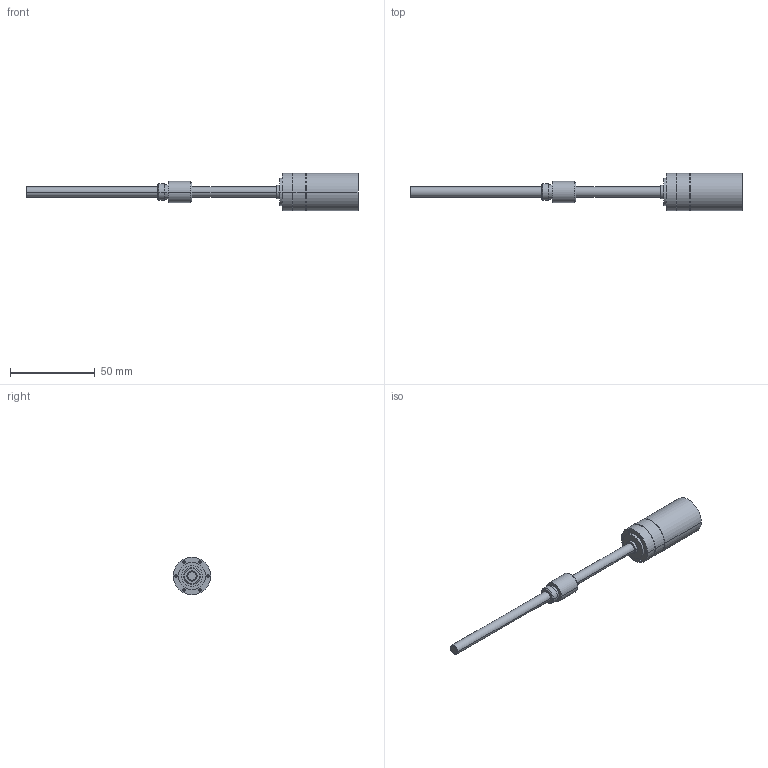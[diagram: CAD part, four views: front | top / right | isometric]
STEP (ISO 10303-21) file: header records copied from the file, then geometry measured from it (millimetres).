
FILE_DESCRIPTION((''),'2;1');
FILE_NAME('363830_GP22S_M-2ST','2016-10-05T',('mmagpetk'),(''),'CREO PARAMETRIC BY PTC INC, 2016050','CREO PARAMETRIC BY PTC INC, 2016050','');
FILE_SCHEMA(('CONFIG_CONTROL_DESIGN'));
Length unit declared in the file: millimetre
Products named in the file (1): 363830_GP22S_M-2ST
Bounding box: 195.8 x 22 x 22 mm (x, y, z)
Volume: 22343.2 mm3; surface area: 7641.3 mm2
Topology: 1 solids, 1 shells, 70 faces, 150 edges, 84 vertices
Faces by surface type: cylinder 34, cone 26, plane 10
Entity records: 2337 total; most frequent: DIRECTION 356, CARTESIAN_POINT 292, ORIENTED_EDGE 276, AXIS2_PLACEMENT_3D 148, PRESENTATION_STYLE_ASSIGNMENT 139, STYLED_ITEM 139, CURVE_STYLE 138, EDGE_CURVE 138
